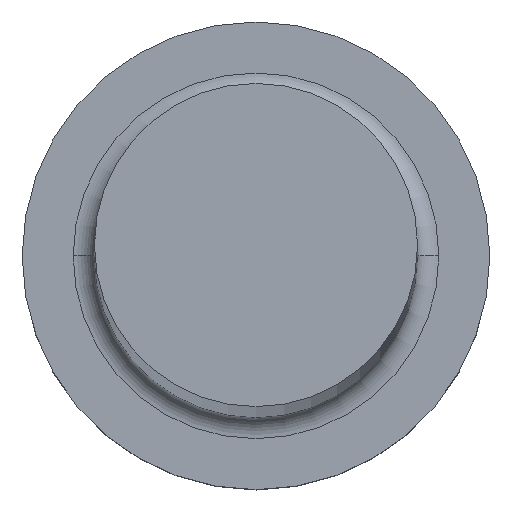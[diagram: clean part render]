
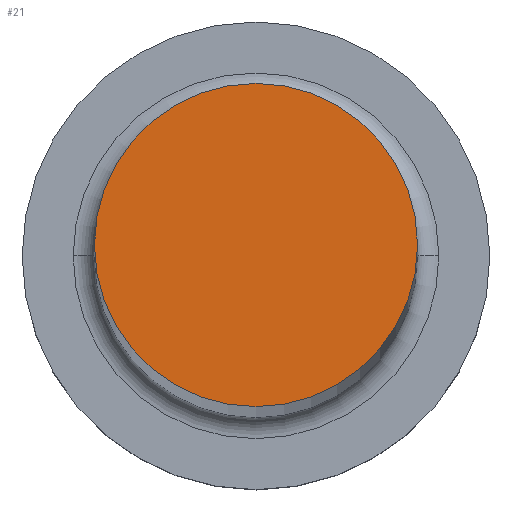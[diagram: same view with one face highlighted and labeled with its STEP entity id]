
A CAD part, top view. The second image highlights one B-rep face of the part: STEP entity #21.
In plain terms, the highlighted planar face has unit normal (0, 0, 1).
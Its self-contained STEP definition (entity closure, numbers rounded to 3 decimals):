
#21 = ADVANCED_FACE ( 'NONE', ( #49 ), #255, .F. ) ;
#25 = DIRECTION ( 'NONE',  ( 0., 0., -1. ) ) ;
#27 = AXIS2_PLACEMENT_3D ( 'NONE', #153, #25, #43 ) ;
#33 = EDGE_CURVE ( 'NONE', #162, #143, #249, .T. ) ;
#35 = CIRCLE ( 'NONE', #103, 3.8 ) ;
#36 = EDGE_CURVE ( 'NONE', #143, #162, #35, .T. ) ;
#43 = DIRECTION ( 'NONE',  ( -1., 0., 0. ) ) ;
#49 = FACE_OUTER_BOUND ( 'NONE', #207, .T. ) ;
#65 = CARTESIAN_POINT ( 'NONE',  ( -3.8, 0., 150. ) ) ;
#78 = AXIS2_PLACEMENT_3D ( 'NONE', #234, #104, #85 ) ;
#85 = DIRECTION ( 'NONE',  ( -1., 0., 0. ) ) ;
#88 = CARTESIAN_POINT ( 'NONE',  ( 0., 0., 150. ) ) ;
#103 = AXIS2_PLACEMENT_3D ( 'NONE', #88, #105, #122 ) ;
#104 = DIRECTION ( 'NONE',  ( 0., 0., -1. ) ) ;
#105 = DIRECTION ( 'NONE',  ( 0., 0., -1. ) ) ;
#122 = DIRECTION ( 'NONE',  ( -1., 0., 0. ) ) ;
#143 = VERTEX_POINT ( 'NONE', #65 ) ;
#153 = CARTESIAN_POINT ( 'NONE',  ( 0., 0., 150. ) ) ;
#162 = VERTEX_POINT ( 'NONE', #221 ) ;
#199 = ORIENTED_EDGE ( 'NONE', *, *, #33, .F. ) ;
#207 = EDGE_LOOP ( 'NONE', ( #266, #199 ) ) ;
#221 = CARTESIAN_POINT ( 'NONE',  ( 3.8, 0., 150. ) ) ;
#234 = CARTESIAN_POINT ( 'NONE',  ( 0., 0., 150. ) ) ;
#249 = CIRCLE ( 'NONE', #78, 3.8 ) ;
#255 = PLANE ( 'NONE',  #27 ) ;
#266 = ORIENTED_EDGE ( 'NONE', *, *, #36, .F. ) ;
